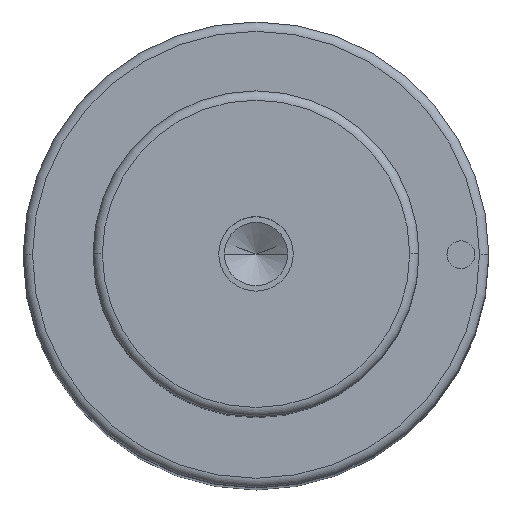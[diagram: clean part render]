
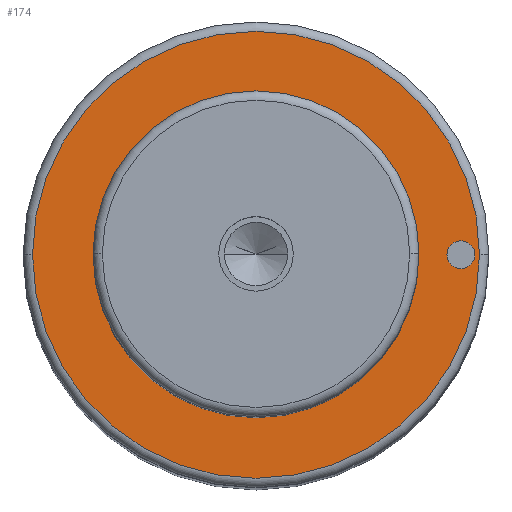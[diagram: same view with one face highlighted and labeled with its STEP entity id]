
A CAD part, top view. The second image highlights one B-rep face of the part: STEP entity #174.
In plain terms, the highlighted planar face has unit normal (0, 0, 1).
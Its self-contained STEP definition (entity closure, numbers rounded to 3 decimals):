
#105=PLANE('',#834);
#115=FACE_BOUND('',#275,.T.);
#116=FACE_BOUND('',#276,.T.);
#117=FACE_BOUND('',#277,.T.);
#174=ADVANCED_FACE('',(#115,#116,#117),#105,.T.);
#275=EDGE_LOOP('',(#455,#456));
#276=EDGE_LOOP('',(#457,#458));
#277=EDGE_LOOP('',(#459,#460));
#323=CIRCLE('',#802,17.5);
#324=CIRCLE('',#804,17.5);
#328=CIRCLE('',#809,24.);
#329=CIRCLE('',#811,24.);
#341=CIRCLE('',#832,1.5);
#342=CIRCLE('',#833,1.5);
#455=ORIENTED_EDGE('',*,*,#642,.F.);
#456=ORIENTED_EDGE('',*,*,#643,.F.);
#457=ORIENTED_EDGE('',*,*,#661,.F.);
#458=ORIENTED_EDGE('',*,*,#662,.F.);
#459=ORIENTED_EDGE('',*,*,#638,.T.);
#460=ORIENTED_EDGE('',*,*,#636,.T.);
#570=VERTEX_POINT('',#1183);
#571=VERTEX_POINT('',#1185);
#572=VERTEX_POINT('',#1191);
#575=VERTEX_POINT('',#1196);
#584=VERTEX_POINT('',#1235);
#585=VERTEX_POINT('',#1236);
#636=EDGE_CURVE('',#571,#570,#323,.T.);
#638=EDGE_CURVE('',#570,#571,#324,.T.);
#642=EDGE_CURVE('',#575,#572,#328,.T.);
#643=EDGE_CURVE('',#572,#575,#329,.T.);
#661=EDGE_CURVE('',#584,#585,#341,.T.);
#662=EDGE_CURVE('',#585,#584,#342,.T.);
#802=AXIS2_PLACEMENT_3D('',#1184,#943,#944);
#804=AXIS2_PLACEMENT_3D('',#1188,#948,#949);
#809=AXIS2_PLACEMENT_3D('',#1197,#958,#959);
#811=AXIS2_PLACEMENT_3D('',#1199,#962,#963);
#832=AXIS2_PLACEMENT_3D('',#1234,#1010,#1011);
#833=AXIS2_PLACEMENT_3D('',#1237,#1012,#1013);
#834=AXIS2_PLACEMENT_3D('',#1238,#1014,#1015);
#943=DIRECTION('',(0.,0.,-1.));
#944=DIRECTION('',(0.,1.,0.));
#948=DIRECTION('',(0.,0.,-1.));
#949=DIRECTION('',(0.,-1.,0.));
#958=DIRECTION('',(0.,0.,-1.));
#959=DIRECTION('',(0.,1.,0.));
#962=DIRECTION('',(0.,0.,-1.));
#963=DIRECTION('',(0.,-1.,0.));
#1010=DIRECTION('',(0.,0.,1.));
#1011=DIRECTION('',(0.,1.,0.));
#1012=DIRECTION('',(0.,0.,1.));
#1013=DIRECTION('',(0.,-1.,0.));
#1014=DIRECTION('',(0.,0.,1.));
#1015=DIRECTION('',(0.,-1.,0.));
#1183=CARTESIAN_POINT('',(-17.5,0.,147.));
#1184=CARTESIAN_POINT('',(0.,0.,147.));
#1185=CARTESIAN_POINT('',(17.5,0.,147.));
#1188=CARTESIAN_POINT('',(0.,0.,147.));
#1191=CARTESIAN_POINT('',(-24.,0.,147.));
#1196=CARTESIAN_POINT('',(24.,0.,147.));
#1197=CARTESIAN_POINT('',(0.,0.,147.));
#1199=CARTESIAN_POINT('',(0.,0.,147.));
#1234=CARTESIAN_POINT('',(22.,0.,147.));
#1235=CARTESIAN_POINT('',(20.5,0.,147.));
#1236=CARTESIAN_POINT('',(23.5,0.,147.));
#1237=CARTESIAN_POINT('',(22.,0.,147.));
#1238=CARTESIAN_POINT('',(0.,0.,147.));
